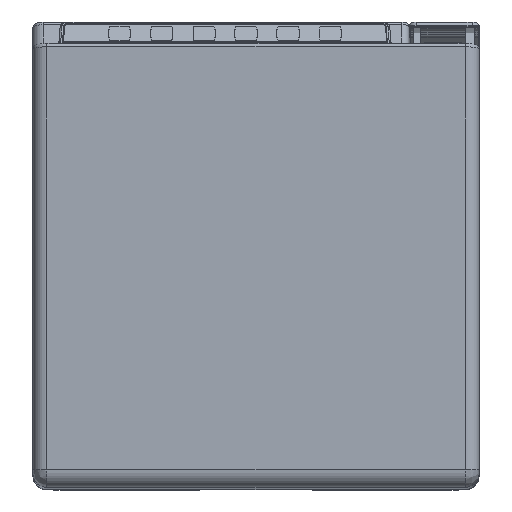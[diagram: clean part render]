
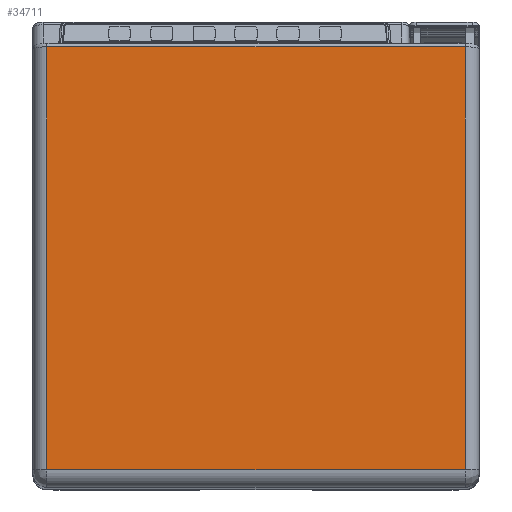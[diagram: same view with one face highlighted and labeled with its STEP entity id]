
A CAD part, top view. The second image highlights one B-rep face of the part: STEP entity #34711.
In plain terms, the highlighted planar face has unit normal (0, 0, 1).
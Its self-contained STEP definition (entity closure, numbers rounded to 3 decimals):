
#289=CARTESIAN_POINT('',(27.9,19.415,23.5));
#12390=DIRECTION('',(0.,-1.,0.));
#12391=VECTOR('',#12390,120.371);
#12392=CARTESIAN_POINT('',(27.9,19.415,23.5));
#12393=LINE('',#12392,#12391);
#12394=DIRECTION('',(1.,0.,0.));
#12395=VECTOR('',#12394,119.);
#12396=CARTESIAN_POINT('',(-91.1,-100.956,23.5));
#12397=LINE('',#12396,#12395);
#12398=DIRECTION('',(0.,1.,0.));
#12399=VECTOR('',#12398,120.371);
#12400=CARTESIAN_POINT('',(-91.1,-100.956,23.5));
#12401=LINE('',#12400,#12399);
#12402=DIRECTION('',(-1.,0.,0.));
#12403=VECTOR('',#12402,119.);
#12404=CARTESIAN_POINT('',(27.9,19.415,23.5));
#12405=LINE('',#12404,#12403);
#15756=CARTESIAN_POINT('',(27.9,-100.956,23.5));
#15758=VERTEX_POINT('',#15756);
#15760=CARTESIAN_POINT('',(-91.1,-100.956,23.5));
#15762=VERTEX_POINT('',#15760);
#15782=VERTEX_POINT('',#289);
#15783=CARTESIAN_POINT('',(-91.1,19.415,23.5));
#15784=VERTEX_POINT('',#15783);
#34698=CARTESIAN_POINT('',(-95.1,20.5,23.5));
#34699=DIRECTION('',(0.,0.,1.));
#34700=DIRECTION('',(0.,-1.,0.));
#34701=AXIS2_PLACEMENT_3D('',#34698,#34699,#34700);
#34702=PLANE('',#34701);
#34703=ORIENTED_EDGE('',*,*,#18554,.T.);
#34705=ORIENTED_EDGE('',*,*,#34704,.F.);
#34707=ORIENTED_EDGE('',*,*,#34706,.T.);
#34708=ORIENTED_EDGE('',*,*,#34685,.F.);
#34709=EDGE_LOOP('',(#34703,#34705,#34707,#34708));
#34710=FACE_OUTER_BOUND('',#34709,.F.);
#18554=EDGE_CURVE('',#15782,#15758,#12393,.T.);
#34685=EDGE_CURVE('',#15782,#15784,#12405,.T.);
#34704=EDGE_CURVE('',#15762,#15758,#12397,.T.);
#34706=EDGE_CURVE('',#15762,#15784,#12401,.T.);
#34711=ADVANCED_FACE('',(#34710),#34702,.T.);
